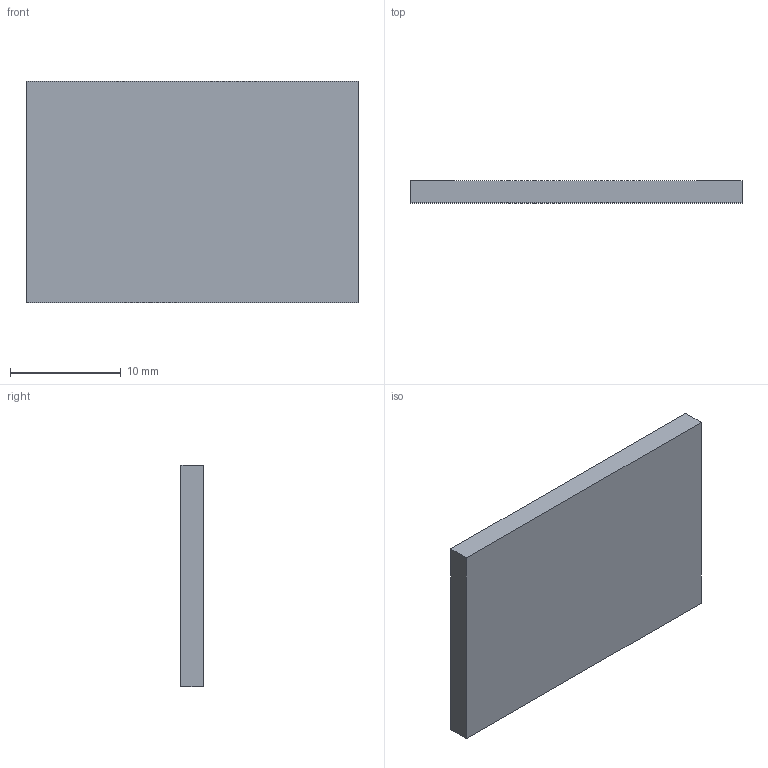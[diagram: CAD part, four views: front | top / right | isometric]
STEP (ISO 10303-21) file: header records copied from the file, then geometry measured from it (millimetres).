
FILE_DESCRIPTION(('STEP AP203'), '1');
FILE_NAME('R1-35-3-1', '', ('UNSPECIFIED'), ('UNSPECIFIED'), 'ASCON STEP Converter 1.6', 'ASCON Math Kernel', '');
FILE_SCHEMA(('CONFIG_CONTROL_DESIGN'));
Length unit declared in the file: millimetre
Bounding box: 30 x 2.01 x 20 mm (x, y, z)
Volume: 1200.3 mm3; surface area: 1400.3 mm2
Topology: 1 solids, 1 shells, 12 faces, 30 edges, 20 vertices
Faces by surface type: plane 12
Entity records: 494 total; most frequent: CARTESIAN_POINT 63, ORIENTED_EDGE 60, DIRECTION 56, EDGE_CURVE 30, LINE 30, VECTOR 30, VERTEX_POINT 20, AXIS2_PLACEMENT_3D 13
